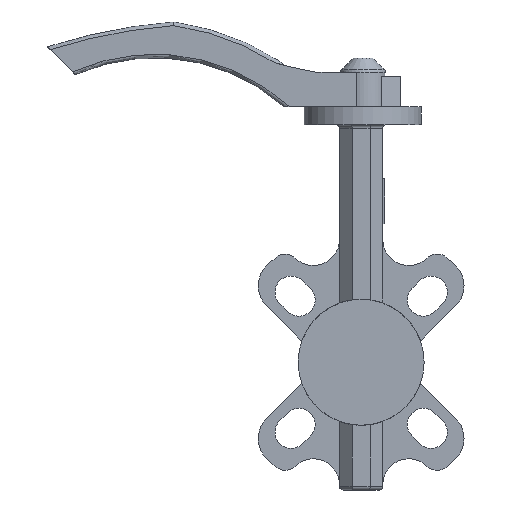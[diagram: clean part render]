
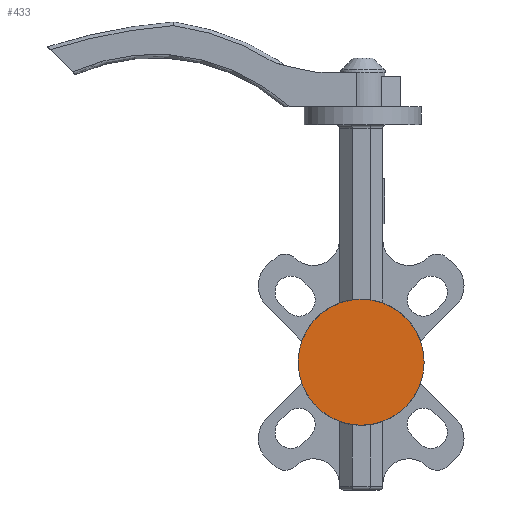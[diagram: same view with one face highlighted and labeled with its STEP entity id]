
A CAD part, front view. The second image highlights one B-rep face of the part: STEP entity #433.
In plain terms, the highlighted planar face has unit normal (0, -1, 0).
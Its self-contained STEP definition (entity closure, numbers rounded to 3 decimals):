
#350=CIRCLE('',#3519,35.);
#433=ADVANCED_FACE('',(#720),#619,.T.);
#619=PLANE('',#3535);
#720=FACE_OUTER_BOUND('',#891,.T.);
#891=EDGE_LOOP('',(#1161));
#1161=ORIENTED_EDGE('',*,*,#2420,.F.);
#2095=VERTEX_POINT('',#4695);
#2420=EDGE_CURVE('',#2095,#2095,#350,.T.);
#3519=AXIS2_PLACEMENT_3D('',#4694,#3819,#3820);
#3535=AXIS2_PLACEMENT_3D('',#4753,#3868,#3869);
#3819=DIRECTION('',(0.,1.,0.));
#3820=DIRECTION('',(0.,0.,1.));
#3868=DIRECTION('',(0.,-1.,0.));
#3869=DIRECTION('',(0.,0.,-1.));
#4694=CARTESIAN_POINT('',(0.,0.,0.));
#4695=CARTESIAN_POINT('',(0.,0.,35.));
#4753=CARTESIAN_POINT('',(0.,0.,35.));
